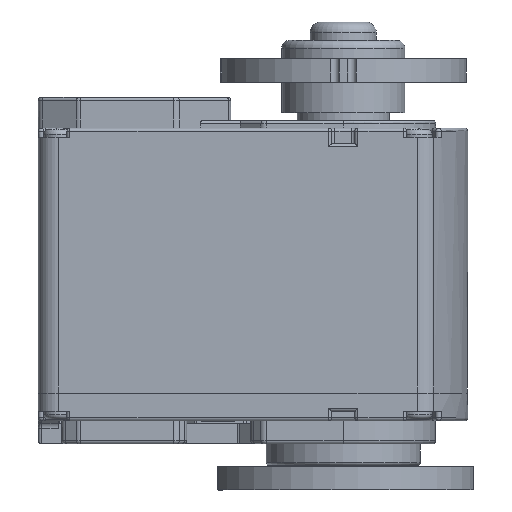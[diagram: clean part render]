
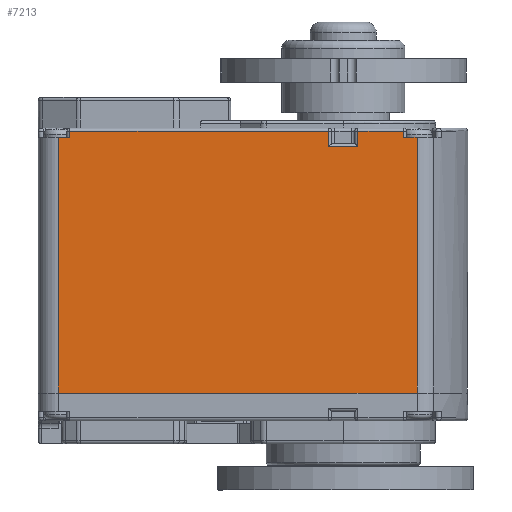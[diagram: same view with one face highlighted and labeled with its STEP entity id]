
A CAD part, front view. The second image highlights one B-rep face of the part: STEP entity #7213.
In plain terms, the highlighted planar face has unit normal (0, -1, 0).
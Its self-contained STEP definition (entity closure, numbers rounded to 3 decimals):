
#423 = DIRECTION ( 'NONE',  ( 0., 0., -1. ) ) ;
#462 = ORIENTED_EDGE ( 'NONE', *, *, #18075, .F. ) ;
#463 = AXIS2_PLACEMENT_3D ( 'NONE', #2067, #5402, #16995 ) ;
#515 = VECTOR ( 'NONE', #12048, 1000. ) ;
#542 = CARTESIAN_POINT ( 'NONE',  ( -19.8, -8., -0.2 ) ) ;
#600 = EDGE_CURVE ( 'NONE', #18924, #11895, #5034, .T. ) ;
#962 = CARTESIAN_POINT ( 'NONE',  ( 0.95, -8., -1.2 ) ) ;
#1517 = CARTESIAN_POINT ( 'NONE',  ( -17.762, -8., -0.2 ) ) ;
#1662 = CARTESIAN_POINT ( 'NONE',  ( -15., -8., -17.2 ) ) ;
#1899 = ORIENTED_EDGE ( 'NONE', *, *, #16346, .F. ) ;
#2052 = CARTESIAN_POINT ( 'NONE',  ( -19.8, -8., -0.2 ) ) ;
#2067 = CARTESIAN_POINT ( 'NONE',  ( -19.8, -8., -3. ) ) ;
#2280 = VERTEX_POINT ( 'NONE', #962 ) ;
#2691 = EDGE_CURVE ( 'NONE', #14064, #5419, #6928, .T. ) ;
#3325 = DIRECTION ( 'NONE',  ( -1., 0., 0. ) ) ;
#3534 = CARTESIAN_POINT ( 'NONE',  ( -17.762, -8., -3. ) ) ;
#3663 = CARTESIAN_POINT ( 'NONE',  ( 3.916, -8., -3. ) ) ;
#3709 = DIRECTION ( 'NONE',  ( 1., 0., 0. ) ) ;
#4155 = LINE ( 'NONE', #3663, #12457 ) ;
#4292 = ORIENTED_EDGE ( 'NONE', *, *, #18811, .T. ) ;
#4513 = CARTESIAN_POINT ( 'NONE',  ( -19.8, -8., -1.2 ) ) ;
#5034 = LINE ( 'NONE', #542, #14879 ) ;
#5094 = ORIENTED_EDGE ( 'NONE', *, *, #12475, .F. ) ;
#5179 = CARTESIAN_POINT ( 'NONE',  ( 0.95, -8., -0.2 ) ) ;
#5185 = ORIENTED_EDGE ( 'NONE', *, *, #11088, .F. ) ;
#5205 = DIRECTION ( 'NONE',  ( 0., 0., 1. ) ) ;
#5283 = CARTESIAN_POINT ( 'NONE',  ( 4.8, -8., -0.6 ) ) ;
#5306 = DIRECTION ( 'NONE',  ( 1., 0., 0. ) ) ;
#5402 = DIRECTION ( 'NONE',  ( 0., 1., 0. ) ) ;
#5419 = VERTEX_POINT ( 'NONE', #5472 ) ;
#5472 = CARTESIAN_POINT ( 'NONE',  ( 4.8, -8., -17.2 ) ) ;
#5758 = VERTEX_POINT ( 'NONE', #5179 ) ;
#5799 = EDGE_CURVE ( 'NONE', #11895, #13605, #15305, .T. ) ;
#5902 = DIRECTION ( 'NONE',  ( 0., 0., -1. ) ) ;
#5938 = CARTESIAN_POINT ( 'NONE',  ( 3.916, -8., -0.2 ) ) ;
#6225 = DIRECTION ( 'NONE',  ( 1., 0., 0. ) ) ;
#6928 = LINE ( 'NONE', #20796, #16750 ) ;
#7213 = ADVANCED_FACE ( 'NONE', ( #15249 ), #15301, .F. ) ;
#7234 = LINE ( 'NONE', #19265, #19399 ) ;
#7373 = CARTESIAN_POINT ( 'NONE',  ( -18.5, -8., -17.2 ) ) ;
#7447 = VECTOR ( 'NONE', #5205, 1000. ) ;
#7812 = DIRECTION ( 'NONE',  ( -1., 0., 0. ) ) ;
#8708 = ORIENTED_EDGE ( 'NONE', *, *, #2691, .F. ) ;
#8747 = LINE ( 'NONE', #4513, #12618 ) ;
#8798 = CARTESIAN_POINT ( 'NONE',  ( -0.95, -8., -3. ) ) ;
#9323 = LINE ( 'NONE', #14041, #13180 ) ;
#9968 = ORIENTED_EDGE ( 'NONE', *, *, #5799, .F. ) ;
#10376 = LINE ( 'NONE', #16895, #10912 ) ;
#10392 = CARTESIAN_POINT ( 'NONE',  ( -0.95, -8., -1.2 ) ) ;
#10428 = LINE ( 'NONE', #2052, #18197 ) ;
#10612 = ORIENTED_EDGE ( 'NONE', *, *, #21165, .F. ) ;
#10912 = VECTOR ( 'NONE', #5306, 1000. ) ;
#11088 = EDGE_CURVE ( 'NONE', #5758, #21369, #10428, .T. ) ;
#11425 = VECTOR ( 'NONE', #3325, 1000. ) ;
#11593 = VERTEX_POINT ( 'NONE', #16581 ) ;
#11648 = CARTESIAN_POINT ( 'NONE',  ( -17.762, -8., -0.6 ) ) ;
#11895 = VERTEX_POINT ( 'NONE', #15828 ) ;
#12048 = DIRECTION ( 'NONE',  ( 0., 0., 1. ) ) ;
#12243 = ORIENTED_EDGE ( 'NONE', *, *, #19558, .F. ) ;
#12289 = VERTEX_POINT ( 'NONE', #11648 ) ;
#12457 = VECTOR ( 'NONE', #423, 1000. ) ;
#12475 = EDGE_CURVE ( 'NONE', #13605, #2280, #8747, .T. ) ;
#12618 = VECTOR ( 'NONE', #6225, 1000. ) ;
#12969 = CARTESIAN_POINT ( 'NONE',  ( -18.5, -8., -0.6 ) ) ;
#13180 = VECTOR ( 'NONE', #17471, 1000. ) ;
#13379 = ORIENTED_EDGE ( 'NONE', *, *, #16917, .F. ) ;
#13605 = VERTEX_POINT ( 'NONE', #10392 ) ;
#13689 = LINE ( 'NONE', #20366, #515 ) ;
#14041 = CARTESIAN_POINT ( 'NONE',  ( 0.95, -8., -3. ) ) ;
#14064 = VERTEX_POINT ( 'NONE', #5283 ) ;
#14251 = DIRECTION ( 'NONE',  ( 1., 0., 0. ) ) ;
#14668 = VERTEX_POINT ( 'NONE', #7373 ) ;
#14879 = VECTOR ( 'NONE', #14251, 1000. ) ;
#15249 = FACE_OUTER_BOUND ( 'NONE', #16524, .T. ) ;
#15301 = PLANE ( 'NONE',  #463 ) ;
#15305 = LINE ( 'NONE', #8798, #20234 ) ;
#15828 = CARTESIAN_POINT ( 'NONE',  ( -0.95, -8., -0.2 ) ) ;
#16335 = LINE ( 'NONE', #1662, #11425 ) ;
#16346 = EDGE_CURVE ( 'NONE', #21369, #11593, #4155, .T. ) ;
#16524 = EDGE_LOOP ( 'NONE', ( #8708, #4292, #1899, #5185, #462, #5094, #9968, #20214, #10612, #13379, #12243, #20734 ) ) ;
#16581 = CARTESIAN_POINT ( 'NONE',  ( 3.916, -8., -0.6 ) ) ;
#16750 = VECTOR ( 'NONE', #5902, 1000. ) ;
#16895 = CARTESIAN_POINT ( 'NONE',  ( -19.8, -8., -0.6 ) ) ;
#16917 = EDGE_CURVE ( 'NONE', #20550, #12289, #10376, .T. ) ;
#16995 = DIRECTION ( 'NONE',  ( -1., 0., 0. ) ) ;
#17424 = EDGE_CURVE ( 'NONE', #5419, #14668, #16335, .T. ) ;
#17471 = DIRECTION ( 'NONE',  ( 0., 0., 1. ) ) ;
#18075 = EDGE_CURVE ( 'NONE', #2280, #5758, #9323, .T. ) ;
#18197 = VECTOR ( 'NONE', #3709, 1000. ) ;
#18811 = EDGE_CURVE ( 'NONE', #14064, #11593, #7234, .T. ) ;
#18924 = VERTEX_POINT ( 'NONE', #1517 ) ;
#19265 = CARTESIAN_POINT ( 'NONE',  ( 4.8, -8., -0.6 ) ) ;
#19399 = VECTOR ( 'NONE', #7812, 1000. ) ;
#19558 = EDGE_CURVE ( 'NONE', #14668, #20550, #13689, .T. ) ;
#20214 = ORIENTED_EDGE ( 'NONE', *, *, #600, .F. ) ;
#20234 = VECTOR ( 'NONE', #20368, 1000. ) ;
#20366 = CARTESIAN_POINT ( 'NONE',  ( -18.5, -8., -3. ) ) ;
#20368 = DIRECTION ( 'NONE',  ( 0., 0., -1. ) ) ;
#20550 = VERTEX_POINT ( 'NONE', #12969 ) ;
#20734 = ORIENTED_EDGE ( 'NONE', *, *, #17424, .F. ) ;
#20796 = CARTESIAN_POINT ( 'NONE',  ( 4.8, -8., -3. ) ) ;
#21165 = EDGE_CURVE ( 'NONE', #12289, #18924, #21171, .T. ) ;
#21171 = LINE ( 'NONE', #3534, #7447 ) ;
#21369 = VERTEX_POINT ( 'NONE', #5938 ) ;
